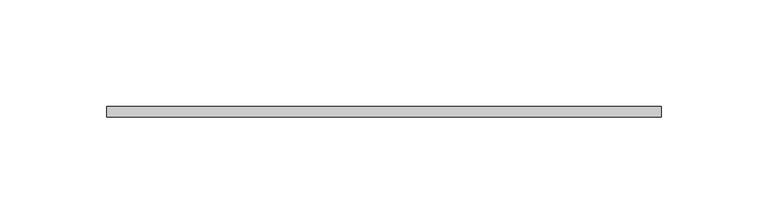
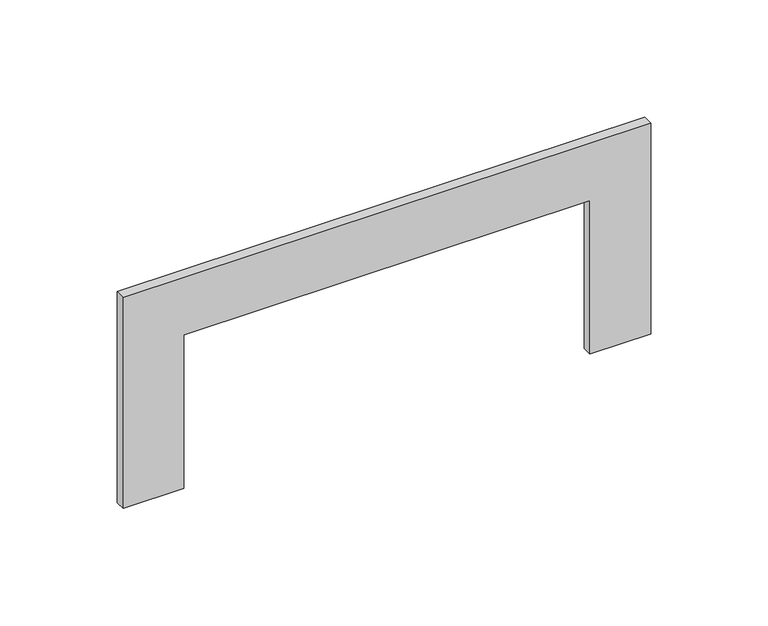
"""IFC4 building model written with IfcOpenShell, lengths in millimetres: proxy geometry, КНС_РамкаДляВводаRQM_ILC_DKC : TA-GN 60x...."""

from ifc_helpers import new_model, si_unit, frame, origin, place, context, project, spatial, polyline, outline, extrude, source, transform, mapped, element, save


def electrical_fixtures_be6fdbad(model_context):
    return source(origin(), model_context, "Body", "SweptSolid", [
        extrude(outline(polyline([(110.0, -130.0), (0.0, -130.0), (0.0, -100.0), (80.0, -100.0), (80.0, 100.0), (0.0, 100.0), (0.0, 130.0), (110.0, 130.0), (110.0, -130.0)])), frame((0.0, -5.0, 0.0), z_axis=(0.0, 1.0, 0.0), x_axis=(0.0, 0.0, 1.0)), (0.0, 0.0, 1.0), 5.0),
    ])


if __name__ == "__main__":
    model = new_model("IFC4")
    model_context = context("Model", 3, world=origin())
    ifc_project = project(units=[si_unit("LENGTHUNIT", "METRE", prefix="MILLI")], contexts=[model_context])
    site = spatial("IfcSite", under=ifc_project)
    building = spatial("IfcBuilding", under=site)
    placement = place(None, origin())
    electrical_fixtures_shape = electrical_fixtures_be6fdbad(model_context)
    element("IfcBuildingElementProxy", 1, Name="КНС_РамкаДляВводаRQM_ILC_DKC : TA-GN 60x...", ObjectType="КНС_РамкаДляВводаRQM_ILC_DKC : TA-GN 60x...", at=placement, inside=building, context=model_context, shape_type="MappedRepresentation", body=[
        mapped(electrical_fixtures_shape, transform((0.0, 0.0, 0.0), x_axis=(1.0, 0.0, 0.0), y_axis=(0.0, 1.0, 0.0), z_axis=(0.0, 0.0, 1.0))),
    ])
    save(model, "model.ifc")
